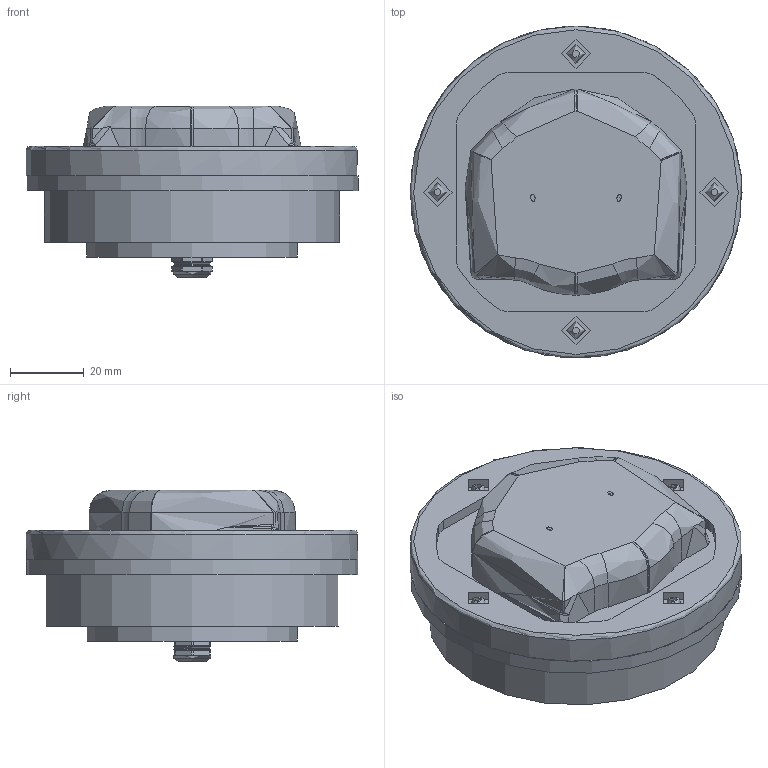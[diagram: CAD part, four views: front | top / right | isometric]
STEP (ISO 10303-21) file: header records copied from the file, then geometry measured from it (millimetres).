
FILE_DESCRIPTION(/* description */ (''),/* implementation_level */ '2;1');
FILE_NAME(/* name */ 'C:/Elena/ILM/02 3D/Quasimodo/Pubblico/Quasimodo pool v1.step',/* time_stamp */ '2020-05-27T15:20:45+02:00',/* author */ (''),/* organization */ (''),/* preprocessor_version */ 'ST-DEVELOPER v18.1',/* originating_system */ 'Autodesk Translation Framework v9.3.0.1241',/* authorisation */ '');
FILE_SCHEMA (('AUTOMOTIVE_DESIGN { 1 0 10303 214 3 1 1 }'));
Products named in the file (1): Quasimodo pool
Bounding box: 90 x 89.91 x 46.58 mm (x, y, z)
Volume: 175002.6 mm3; surface area: 43076.8 mm2
Topology: 8 solids, 10 shells, 521 faces, 1255 edges, 770 vertices
Faces by surface type: bspline 249, plane 136, cylinder 89, torus 37, cone 6, sphere 4
Full cylindrical faces by diameter (mm): 4.1 x4, 5 x1, 7.8 x4, 10 x1, 10.127 x1, 36.09 x1, 57 x1, 80 x1, 90 x2
Entity records: 36255 total; most frequent: CARTESIAN_POINT 25288, ORIENTED_EDGE 2502, DIRECTION 1874, EDGE_CURVE 1251, VERTEX_POINT 770, AXIS2_PLACEMENT_3D 718, EDGE_LOOP 543, FACE_OUTER_BOUND 521
